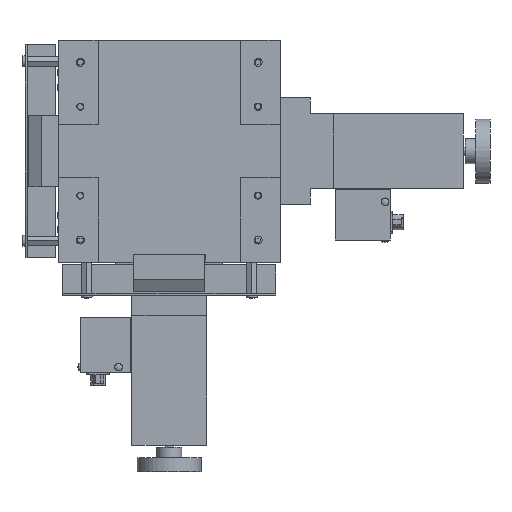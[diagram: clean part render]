
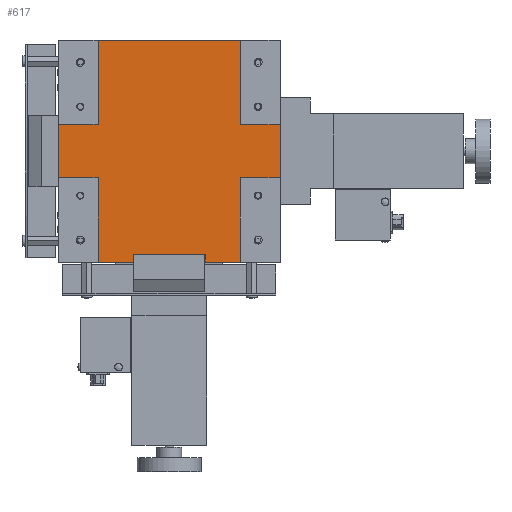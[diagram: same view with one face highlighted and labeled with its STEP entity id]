
A CAD part, front view. The second image highlights one B-rep face of the part: STEP entity #617.
In plain terms, the highlighted planar face has unit normal (0, -1, 0) as drawn and (0, 0, -1) by its records, which use the part's own axes.
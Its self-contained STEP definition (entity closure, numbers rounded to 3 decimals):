
#7 = VECTOR ( 'NONE', #10373, 1000. ) ;
#14 = VECTOR ( 'NONE', #10355, 1000. ) ;
#46 = VECTOR ( 'NONE', #10413, 1000. ) ;
#48 = VECTOR ( 'NONE', #10411, 1000. ) ;
#59 = VECTOR ( 'NONE', #10334, 1000. ) ;
#61 = VECTOR ( 'NONE', #10340, 1000. ) ;
#66 = VECTOR ( 'NONE', #10296, 1000. ) ;
#110 = VECTOR ( 'NONE', #10407, 1000. ) ;
#617 = ADVANCED_FACE ( 'NONE', ( #18565 ), #18566, .F. ) ;
#1216 = ORIENTED_EDGE ( 'NONE', *, *, #3722, .F. ) ;
#1217 = ORIENTED_EDGE ( 'NONE', *, *, #3723, .F. ) ;
#1218 = ORIENTED_EDGE ( 'NONE', *, *, #3724, .F. ) ;
#1219 = ORIENTED_EDGE ( 'NONE', *, *, #3715, .T. ) ;
#1220 = ORIENTED_EDGE ( 'NONE', *, *, #3713, .T. ) ;
#1221 = ORIENTED_EDGE ( 'NONE', *, *, #3711, .T. ) ;
#1222 = ORIENTED_EDGE ( 'NONE', *, *, #3707, .F. ) ;
#1223 = ORIENTED_EDGE ( 'NONE', *, *, #3705, .T. ) ;
#1224 = ORIENTED_EDGE ( 'NONE', *, *, #3703, .T. ) ;
#1225 = ORIENTED_EDGE ( 'NONE', *, *, #3700, .F. ) ;
#1226 = ORIENTED_EDGE ( 'NONE', *, *, #3698, .T. ) ;
#1227 = ORIENTED_EDGE ( 'NONE', *, *, #3696, .T. ) ;
#1228 = ORIENTED_EDGE ( 'NONE', *, *, #3692, .F. ) ;
#1229 = ORIENTED_EDGE ( 'NONE', *, *, #3690, .T. ) ;
#1230 = ORIENTED_EDGE ( 'NONE', *, *, #3688, .T. ) ;
#1231 = ORIENTED_EDGE ( 'NONE', *, *, #3685, .T. ) ;
#2110 = VERTEX_POINT ( 'NONE', #19030 ) ;
#2357 = VERTEX_POINT ( 'NONE', #19277 ) ;
#2363 = VERTEX_POINT ( 'NONE', #19283 ) ;
#2370 = VERTEX_POINT ( 'NONE', #19290 ) ;
#2375 = VERTEX_POINT ( 'NONE', #19295 ) ;
#2387 = VERTEX_POINT ( 'NONE', #19307 ) ;
#2394 = VERTEX_POINT ( 'NONE', #19314 ) ;
#2397 = VERTEX_POINT ( 'NONE', #19317 ) ;
#2404 = VERTEX_POINT ( 'NONE', #19324 ) ;
#3685 = EDGE_CURVE ( 'NONE', #6147, #6144, #10289, .T. ) ;
#3688 = EDGE_CURVE ( 'NONE', #6143, #6147, #10302, .T. ) ;
#3690 = EDGE_CURVE ( 'NONE', #6145, #6143, #10308, .T. ) ;
#3692 = EDGE_CURVE ( 'NONE', #6145, #6043, #10314, .T. ) ;
#3696 = EDGE_CURVE ( 'NONE', #6055, #6043, #10326, .T. ) ;
#3698 = EDGE_CURVE ( 'NONE', #6134, #6055, #10332, .T. ) ;
#3700 = EDGE_CURVE ( 'NONE', #6134, #2397, #10338, .T. ) ;
#3703 = EDGE_CURVE ( 'NONE', #2394, #2397, #10347, .T. ) ;
#3705 = EDGE_CURVE ( 'NONE', #2110, #2394, #10353, .T. ) ;
#3707 = EDGE_CURVE ( 'NONE', #2110, #2387, #10359, .T. ) ;
#3711 = EDGE_CURVE ( 'NONE', #2357, #2387, #10371, .T. ) ;
#3713 = EDGE_CURVE ( 'NONE', #2363, #2357, #10377, .T. ) ;
#3715 = EDGE_CURVE ( 'NONE', #2370, #2363, #10383, .T. ) ;
#3722 = EDGE_CURVE ( 'NONE', #2375, #6144, #10397, .T. ) ;
#3723 = EDGE_CURVE ( 'NONE', #2404, #2375, #10408, .T. ) ;
#3724 = EDGE_CURVE ( 'NONE', #2370, #2404, #10396, .T. ) ;
#6043 = VERTEX_POINT ( 'NONE', #13784 ) ;
#6055 = VERTEX_POINT ( 'NONE', #13797 ) ;
#6134 = VERTEX_POINT ( 'NONE', #13867 ) ;
#6143 = VERTEX_POINT ( 'NONE', #13876 ) ;
#6144 = VERTEX_POINT ( 'NONE', #13877 ) ;
#6145 = VERTEX_POINT ( 'NONE', #13878 ) ;
#6147 = VERTEX_POINT ( 'NONE', #13880 ) ;
#10289 = LINE ( 'NONE', #10294, #66 ) ;
#10294 = CARTESIAN_POINT ( 'NONE',  ( 0., -62.5, 0.5 ) ) ;
#10296 = DIRECTION ( 'NONE',  ( -1., 0., 0. ) ) ;
#10302 = LINE ( 'NONE', #10303, #29867 ) ;
#10303 = CARTESIAN_POINT ( 'NONE',  ( 40., -62.5, 0.5 ) ) ;
#10304 = DIRECTION ( 'NONE',  ( 0., -1., 0. ) ) ;
#10308 = LINE ( 'NONE', #10309, #29888 ) ;
#10309 = CARTESIAN_POINT ( 'NONE',  ( 40., -15., 0.5 ) ) ;
#10310 = DIRECTION ( 'NONE',  ( -1., 0., 0. ) ) ;
#10314 = LINE ( 'NONE', #10315, #29870 ) ;
#10315 = CARTESIAN_POINT ( 'NONE',  ( 62.5, 62.5, 0.5 ) ) ;
#10316 = DIRECTION ( 'NONE',  ( 0., 1., 0. ) ) ;
#10326 = LINE ( 'NONE', #10327, #29898 ) ;
#10327 = CARTESIAN_POINT ( 'NONE',  ( 40., 15., 0.5 ) ) ;
#10328 = DIRECTION ( 'NONE',  ( 1., 0., 0. ) ) ;
#10332 = LINE ( 'NONE', #10333, #59 ) ;
#10333 = CARTESIAN_POINT ( 'NONE',  ( 40., 15., 0.5 ) ) ;
#10334 = DIRECTION ( 'NONE',  ( 0., -1., 0. ) ) ;
#10338 = LINE ( 'NONE', #10339, #61 ) ;
#10339 = CARTESIAN_POINT ( 'NONE',  ( 0., 62.5, 0.5 ) ) ;
#10340 = DIRECTION ( 'NONE',  ( -1., 0., 0. ) ) ;
#10347 = LINE ( 'NONE', #10348, #29889 ) ;
#10348 = CARTESIAN_POINT ( 'NONE',  ( -40., 15., 0.5 ) ) ;
#10349 = DIRECTION ( 'NONE',  ( 0., 1., 0. ) ) ;
#10353 = LINE ( 'NONE', #10354, #14 ) ;
#10354 = CARTESIAN_POINT ( 'NONE',  ( -62.5, 15., 0.5 ) ) ;
#10355 = DIRECTION ( 'NONE',  ( 1., 0., 0. ) ) ;
#10359 = LINE ( 'NONE', #10360, #29892 ) ;
#10360 = CARTESIAN_POINT ( 'NONE',  ( -62.5, 62.5, 0.5 ) ) ;
#10361 = DIRECTION ( 'NONE',  ( 0., -1., 0. ) ) ;
#10371 = LINE ( 'NONE', #10372, #7 ) ;
#10372 = CARTESIAN_POINT ( 'NONE',  ( -62.5, -15., 0.5 ) ) ;
#10373 = DIRECTION ( 'NONE',  ( -1., 0., 0. ) ) ;
#10377 = LINE ( 'NONE', #10378, #29890 ) ;
#10378 = CARTESIAN_POINT ( 'NONE',  ( -40., -62.5, 0.5 ) ) ;
#10379 = DIRECTION ( 'NONE',  ( 0., 1., 0. ) ) ;
#10383 = LINE ( 'NONE', #10384, #29901 ) ;
#10384 = CARTESIAN_POINT ( 'NONE',  ( 0., -62.5, 0.5 ) ) ;
#10385 = DIRECTION ( 'NONE',  ( -1., 0., 0. ) ) ;
#10396 = LINE ( 'NONE', #10412, #46 ) ;
#10397 = LINE ( 'NONE', #10406, #110 ) ;
#10406 = CARTESIAN_POINT ( 'NONE',  ( 20.2, 0., 0.5 ) ) ;
#10407 = DIRECTION ( 'NONE',  ( 0., -1., 0. ) ) ;
#10408 = LINE ( 'NONE', #10410, #48 ) ;
#10410 = CARTESIAN_POINT ( 'NONE',  ( 0., -58., 0.5 ) ) ;
#10411 = DIRECTION ( 'NONE',  ( 1., 0., 0. ) ) ;
#10412 = CARTESIAN_POINT ( 'NONE',  ( -20.2, 0., 0.5 ) ) ;
#10413 = DIRECTION ( 'NONE',  ( 0., 1., 0. ) ) ;
#13784 = CARTESIAN_POINT ( 'NONE',  ( 62.5, 15., 0.5 ) ) ;
#13797 = CARTESIAN_POINT ( 'NONE',  ( 40., 15., 0.5 ) ) ;
#13867 = CARTESIAN_POINT ( 'NONE',  ( 40., 62.5, 0.5 ) ) ;
#13876 = CARTESIAN_POINT ( 'NONE',  ( 40., -15., 0.5 ) ) ;
#13877 = CARTESIAN_POINT ( 'NONE',  ( 20.2, -62.5, 0.5 ) ) ;
#13878 = CARTESIAN_POINT ( 'NONE',  ( 62.5, -15., 0.5 ) ) ;
#13880 = CARTESIAN_POINT ( 'NONE',  ( 40., -62.5, 0.5 ) ) ;
#18561 = CARTESIAN_POINT ( 'NONE',  ( 0., 0., 0.5 ) ) ;
#18565 = FACE_OUTER_BOUND ( 'NONE', #23766, .T. ) ;
#18566 = PLANE ( 'NONE',  #24621 ) ;
#18568 = DIRECTION ( 'NONE',  ( 0., 0., 1. ) ) ;
#18569 = DIRECTION ( 'NONE',  ( 0., 1., 0. ) ) ;
#19030 = CARTESIAN_POINT ( 'NONE',  ( -62.5, 15., 0.5 ) ) ;
#19277 = CARTESIAN_POINT ( 'NONE',  ( -40., -15., 0.5 ) ) ;
#19283 = CARTESIAN_POINT ( 'NONE',  ( -40., -62.5, 0.5 ) ) ;
#19290 = CARTESIAN_POINT ( 'NONE',  ( -20.2, -62.5, 0.5 ) ) ;
#19295 = CARTESIAN_POINT ( 'NONE',  ( 20.2, -58., 0.5 ) ) ;
#19307 = CARTESIAN_POINT ( 'NONE',  ( -62.5, -15., 0.5 ) ) ;
#19314 = CARTESIAN_POINT ( 'NONE',  ( -40., 15., 0.5 ) ) ;
#19317 = CARTESIAN_POINT ( 'NONE',  ( -40., 62.5, 0.5 ) ) ;
#19324 = CARTESIAN_POINT ( 'NONE',  ( -20.2, -58., 0.5 ) ) ;
#23766 = EDGE_LOOP ( 'NONE', ( #1216, #1217, #1218, #1219, #1220, #1221, #1222, #1223, #1224, #1225, #1226, #1227, #1228, #1229, #1230, #1231 ) ) ;
#24621 = AXIS2_PLACEMENT_3D ( 'NONE', #18561, #18568, #18569 ) ;
#29867 = VECTOR ( 'NONE', #10304, 1000. ) ;
#29870 = VECTOR ( 'NONE', #10316, 1000. ) ;
#29888 = VECTOR ( 'NONE', #10310, 1000. ) ;
#29889 = VECTOR ( 'NONE', #10349, 1000. ) ;
#29890 = VECTOR ( 'NONE', #10379, 1000. ) ;
#29892 = VECTOR ( 'NONE', #10361, 1000. ) ;
#29898 = VECTOR ( 'NONE', #10328, 1000. ) ;
#29901 = VECTOR ( 'NONE', #10385, 1000. ) ;
